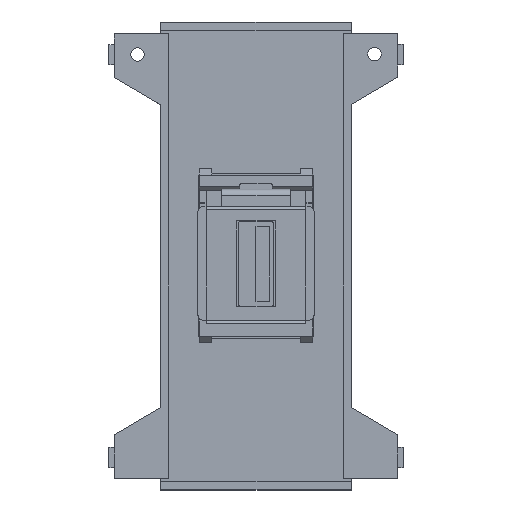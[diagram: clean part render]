
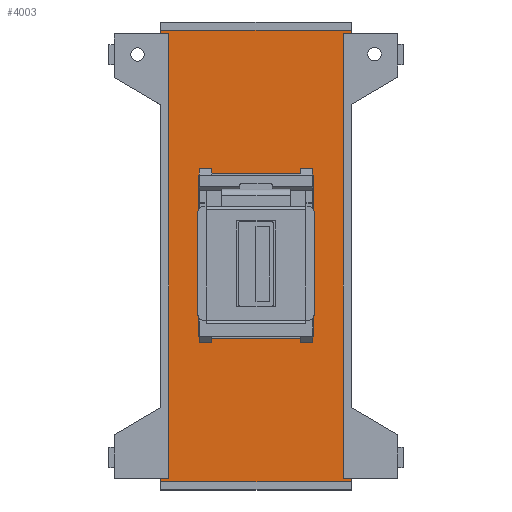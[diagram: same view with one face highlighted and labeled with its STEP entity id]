
A CAD part, top view. The second image highlights one B-rep face of the part: STEP entity #4003.
In plain terms, the highlighted planar face has unit normal (0, 0, 1).
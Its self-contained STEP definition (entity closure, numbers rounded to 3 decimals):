
#3713 = VERTEX_POINT('',#3714);
#3714 = CARTESIAN_POINT('',(12.15,7.9,1.2));
#3720 = EDGE_CURVE('',#3721,#3713,#3723,.T.);
#3721 = VERTEX_POINT('',#3722);
#3722 = CARTESIAN_POINT('',(12.15,-7.9,1.2));
#3723 = LINE('',#3724,#3725);
#3724 = CARTESIAN_POINT('',(12.15,4.2,1.2));
#3725 = VECTOR('',#3726,1.);
#3726 = DIRECTION('',(0.,1.,0.));
#3743 = EDGE_CURVE('',#3721,#3744,#3746,.T.);
#3744 = VERTEX_POINT('',#3745);
#3745 = CARTESIAN_POINT('',(11.65,-8.4,1.2));
#3746 = CIRCLE('',#3747,0.5);
#3747 = AXIS2_PLACEMENT_3D('',#3748,#3749,#3750);
#3748 = CARTESIAN_POINT('',(11.65,-7.9,1.2));
#3749 = DIRECTION('',(-0.,-0.,-1.));
#3750 = DIRECTION('',(0.,-1.,0.));
#3768 = VERTEX_POINT('',#3769);
#3769 = CARTESIAN_POINT('',(11.65,8.4,1.2));
#3775 = EDGE_CURVE('',#3768,#3713,#3776,.T.);
#3776 = CIRCLE('',#3777,0.5);
#3777 = AXIS2_PLACEMENT_3D('',#3778,#3779,#3780);
#3778 = CARTESIAN_POINT('',(11.65,7.9,1.2));
#3779 = DIRECTION('',(-0.,-0.,-1.));
#3780 = DIRECTION('',(0.,-1.,0.));
#3794 = EDGE_CURVE('',#3795,#3744,#3797,.T.);
#3795 = VERTEX_POINT('',#3796);
#3796 = CARTESIAN_POINT('',(-11.65,-8.4,1.2));
#3797 = LINE('',#3798,#3799);
#3798 = CARTESIAN_POINT('',(6.075,-8.4,1.2));
#3799 = VECTOR('',#3800,1.);
#3800 = DIRECTION('',(1.,0.,0.));
#3818 = VERTEX_POINT('',#3819);
#3819 = CARTESIAN_POINT('',(-11.65,8.4,1.2));
#3825 = EDGE_CURVE('',#3768,#3818,#3826,.T.);
#3826 = LINE('',#3827,#3828);
#3827 = CARTESIAN_POINT('',(-6.075,8.4,1.2));
#3828 = VECTOR('',#3829,1.);
#3829 = DIRECTION('',(-1.,0.,0.));
#3842 = EDGE_CURVE('',#3843,#3795,#3845,.T.);
#3843 = VERTEX_POINT('',#3844);
#3844 = CARTESIAN_POINT('',(-12.15,-7.9,1.2));
#3845 = CIRCLE('',#3846,0.5);
#3846 = AXIS2_PLACEMENT_3D('',#3847,#3848,#3849);
#3847 = CARTESIAN_POINT('',(-11.65,-7.9,1.2));
#3848 = DIRECTION('',(-0.,0.,1.));
#3849 = DIRECTION('',(0.,-1.,0.));
#3866 = VERTEX_POINT('',#3867);
#3867 = CARTESIAN_POINT('',(-12.15,7.9,1.2));
#3873 = EDGE_CURVE('',#3866,#3818,#3874,.T.);
#3874 = CIRCLE('',#3875,0.5);
#3875 = AXIS2_PLACEMENT_3D('',#3876,#3877,#3878);
#3876 = CARTESIAN_POINT('',(-11.65,7.9,1.2));
#3877 = DIRECTION('',(-0.,-0.,-1.));
#3878 = DIRECTION('',(0.,-1.,0.));
#3892 = EDGE_CURVE('',#3866,#3843,#3893,.T.);
#3893 = LINE('',#3894,#3895);
#3894 = CARTESIAN_POINT('',(-12.15,-4.2,1.2));
#3895 = VECTOR('',#3896,1.);
#3896 = DIRECTION('',(0.,-1.,0.));
#4003 = ADVANCED_FACE('',(#4004,#4014),#4112,.T.);
#4004 = FACE_BOUND('',#4005,.T.);
#4005 = EDGE_LOOP('',(#4006,#4007,#4008,#4009,#4010,#4011,#4012,#4013));
#4006 = ORIENTED_EDGE('',*,*,#3720,.F.);
#4007 = ORIENTED_EDGE('',*,*,#3743,.T.);
#4008 = ORIENTED_EDGE('',*,*,#3794,.F.);
#4009 = ORIENTED_EDGE('',*,*,#3842,.F.);
#4010 = ORIENTED_EDGE('',*,*,#3892,.F.);
#4011 = ORIENTED_EDGE('',*,*,#3873,.T.);
#4012 = ORIENTED_EDGE('',*,*,#3825,.F.);
#4013 = ORIENTED_EDGE('',*,*,#3775,.T.);
#4014 = FACE_BOUND('',#4015,.T.);
#4015 = EDGE_LOOP('',(#4016,#4026,#4034,#4042,#4050,#4058,#4066,#4074,
    #4082,#4090,#4098,#4106));
#4016 = ORIENTED_EDGE('',*,*,#4017,.F.);
#4017 = EDGE_CURVE('',#4018,#4020,#4022,.T.);
#4018 = VERTEX_POINT('',#4019);
#4019 = CARTESIAN_POINT('',(-33.15,-14.,1.2));
#4020 = VERTEX_POINT('',#4021);
#4021 = CARTESIAN_POINT('',(-33.15,14.,1.2));
#4022 = LINE('',#4023,#4024);
#4023 = CARTESIAN_POINT('',(-33.15,-14.,1.2));
#4024 = VECTOR('',#4025,1.);
#4025 = DIRECTION('',(0.,1.,0.));
#4026 = ORIENTED_EDGE('',*,*,#4027,.T.);
#4027 = EDGE_CURVE('',#4018,#4028,#4030,.T.);
#4028 = VERTEX_POINT('',#4029);
#4029 = CARTESIAN_POINT('',(-32.65,-14.,1.2));
#4030 = LINE('',#4031,#4032);
#4031 = CARTESIAN_POINT('',(-34.35,-14.,1.2));
#4032 = VECTOR('',#4033,1.);
#4033 = DIRECTION('',(1.,0.,0.));
#4034 = ORIENTED_EDGE('',*,*,#4035,.F.);
#4035 = EDGE_CURVE('',#4036,#4028,#4038,.T.);
#4036 = VERTEX_POINT('',#4037);
#4037 = CARTESIAN_POINT('',(-32.65,-12.8,1.2));
#4038 = LINE('',#4039,#4040);
#4039 = CARTESIAN_POINT('',(-32.65,-12.8,1.2));
#4040 = VECTOR('',#4041,1.);
#4041 = DIRECTION('',(0.,-1.,0.));
#4042 = ORIENTED_EDGE('',*,*,#4043,.F.);
#4043 = EDGE_CURVE('',#4044,#4036,#4046,.T.);
#4044 = VERTEX_POINT('',#4045);
#4045 = CARTESIAN_POINT('',(32.65,-12.8,1.2));
#4046 = LINE('',#4047,#4048);
#4047 = CARTESIAN_POINT('',(32.65,-12.8,1.2));
#4048 = VECTOR('',#4049,1.);
#4049 = DIRECTION('',(-1.,0.,0.));
#4050 = ORIENTED_EDGE('',*,*,#4051,.F.);
#4051 = EDGE_CURVE('',#4052,#4044,#4054,.T.);
#4052 = VERTEX_POINT('',#4053);
#4053 = CARTESIAN_POINT('',(32.65,-14.,1.2));
#4054 = LINE('',#4055,#4056);
#4055 = CARTESIAN_POINT('',(32.65,-14.,1.2));
#4056 = VECTOR('',#4057,1.);
#4057 = DIRECTION('',(0.,1.,0.));
#4058 = ORIENTED_EDGE('',*,*,#4059,.T.);
#4059 = EDGE_CURVE('',#4052,#4060,#4062,.T.);
#4060 = VERTEX_POINT('',#4061);
#4061 = CARTESIAN_POINT('',(33.15,-14.,1.2));
#4062 = LINE('',#4063,#4064);
#4063 = CARTESIAN_POINT('',(-34.35,-14.,1.2));
#4064 = VECTOR('',#4065,1.);
#4065 = DIRECTION('',(1.,0.,0.));
#4066 = ORIENTED_EDGE('',*,*,#4067,.F.);
#4067 = EDGE_CURVE('',#4068,#4060,#4070,.T.);
#4068 = VERTEX_POINT('',#4069);
#4069 = CARTESIAN_POINT('',(33.15,14.,1.2));
#4070 = LINE('',#4071,#4072);
#4071 = CARTESIAN_POINT('',(33.15,14.,1.2));
#4072 = VECTOR('',#4073,1.);
#4073 = DIRECTION('',(0.,-1.,0.));
#4074 = ORIENTED_EDGE('',*,*,#4075,.T.);
#4075 = EDGE_CURVE('',#4068,#4076,#4078,.T.);
#4076 = VERTEX_POINT('',#4077);
#4077 = CARTESIAN_POINT('',(32.65,14.,1.2));
#4078 = LINE('',#4079,#4080);
#4079 = CARTESIAN_POINT('',(34.35,14.,1.2));
#4080 = VECTOR('',#4081,1.);
#4081 = DIRECTION('',(-1.,0.,0.));
#4082 = ORIENTED_EDGE('',*,*,#4083,.F.);
#4083 = EDGE_CURVE('',#4084,#4076,#4086,.T.);
#4084 = VERTEX_POINT('',#4085);
#4085 = CARTESIAN_POINT('',(32.65,12.8,1.2));
#4086 = LINE('',#4087,#4088);
#4087 = CARTESIAN_POINT('',(32.65,12.8,1.2));
#4088 = VECTOR('',#4089,1.);
#4089 = DIRECTION('',(0.,1.,0.));
#4090 = ORIENTED_EDGE('',*,*,#4091,.F.);
#4091 = EDGE_CURVE('',#4092,#4084,#4094,.T.);
#4092 = VERTEX_POINT('',#4093);
#4093 = CARTESIAN_POINT('',(-32.65,12.8,1.2));
#4094 = LINE('',#4095,#4096);
#4095 = CARTESIAN_POINT('',(-32.65,12.8,1.2));
#4096 = VECTOR('',#4097,1.);
#4097 = DIRECTION('',(1.,0.,0.));
#4098 = ORIENTED_EDGE('',*,*,#4099,.F.);
#4099 = EDGE_CURVE('',#4100,#4092,#4102,.T.);
#4100 = VERTEX_POINT('',#4101);
#4101 = CARTESIAN_POINT('',(-32.65,14.,1.2));
#4102 = LINE('',#4103,#4104);
#4103 = CARTESIAN_POINT('',(-32.65,14.,1.2));
#4104 = VECTOR('',#4105,1.);
#4105 = DIRECTION('',(0.,-1.,0.));
#4106 = ORIENTED_EDGE('',*,*,#4107,.T.);
#4107 = EDGE_CURVE('',#4100,#4020,#4108,.T.);
#4108 = LINE('',#4109,#4110);
#4109 = CARTESIAN_POINT('',(34.35,14.,1.2));
#4110 = VECTOR('',#4111,1.);
#4111 = DIRECTION('',(-1.,0.,0.));
#4112 = PLANE('',#4113);
#4113 = AXIS2_PLACEMENT_3D('',#4114,#4115,#4116);
#4114 = CARTESIAN_POINT('',(0.,0.,1.2));
#4115 = DIRECTION('',(0.,0.,1.));
#4116 = DIRECTION('',(1.,0.,-0.));
